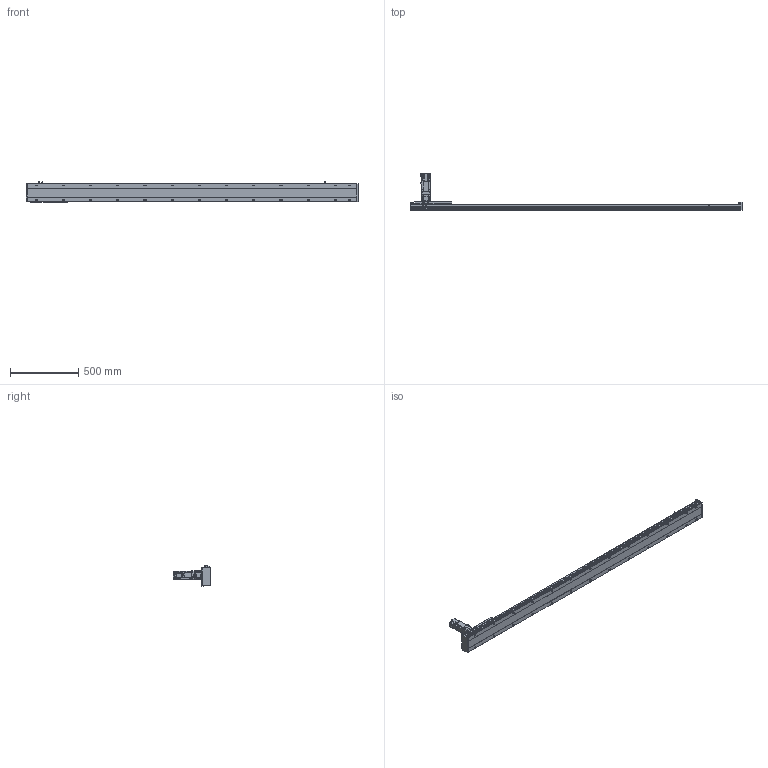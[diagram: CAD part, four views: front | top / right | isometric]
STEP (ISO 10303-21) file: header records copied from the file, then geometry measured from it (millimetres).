
FILE_DESCRIPTION(/* description */ ('STEP AP203'),/* implementation_level */ '2;1');
FILE_NAME(/* name */ 'SHS14A-L10-S2100-BC-T40-C1-N(0)',/* time_stamp */ '2023-03-27T08:49:56+02:00',/* author */ ('License CC BY-ND 4.0'),/* organization */ ('CADENAS'),/* preprocessor_version */ 'ST-DEVELOPER v19.3',/* originating_system */ 'PARTsolutions',/* authorisation */ ' ');
FILE_SCHEMA (('CONFIG_CONTROL_DESIGN'));
Length unit declared in the file: millimetre
Products named in the file (7): SHS14A-L10-S2100-BC-T40-C1-N(0); PSC140-sensor; T40-p1; SHS14AT_body3; SHS14A-2100_slider; SHS14A_body2; SHS14A-S2100-BC-T40-C1(0)_body
Assembly tree (13 placements, depth 2):
  SHS14A-L10-S2100-BC-T40-C1-N(0)
    PSC140-sensor  x3
    T40-p1
    SHS14AT_body3
    SHS14A-2100_slider
    SHS14A_body2  x6
    SHS14A-S2100-BC-T40-C1(0)_body
Bounding box: 2440 x 272.7 x 150.9 mm (x, y, z)
Volume: 10334626.8 mm3; surface area: 1618927.9 mm2
Topology: 13 solids, 13 shells, 2108 faces, 5383 edges, 3520 vertices
Faces by surface type: plane 1473, cylinder 547, cone 78, torus 10
Full cylindrical faces by diameter (mm): 2.8 x3, 4.134 x24, 4.2 x7, 4.4 x24, 4.5 x24, 4.6 x3, 4.8 x24, 4.917 x34, 5 x8, 5.5 x11, 5.94 x6, 6 x2, 6.6 x26, 8 x24, 8.49 x4, 8.5 x4, 9 x4, 10.5 x26, 13.964 x1, 14 x1, 14.182 x1, 16 x1, 18.974 x1, 19.274 x1, 19.774 x1, 19.8 x1, 34.442 x1, 42 x1, 50 x5
Entity records: 33796 total; most frequent: CARTESIAN_POINT 6012, DIRECTION 5713, ORIENTED_EDGE 5262, EDGE_CURVE 2631, AXIS2_PLACEMENT_3D 1985, VERTEX_POINT 1876, LINE 1743, VECTOR 1743
